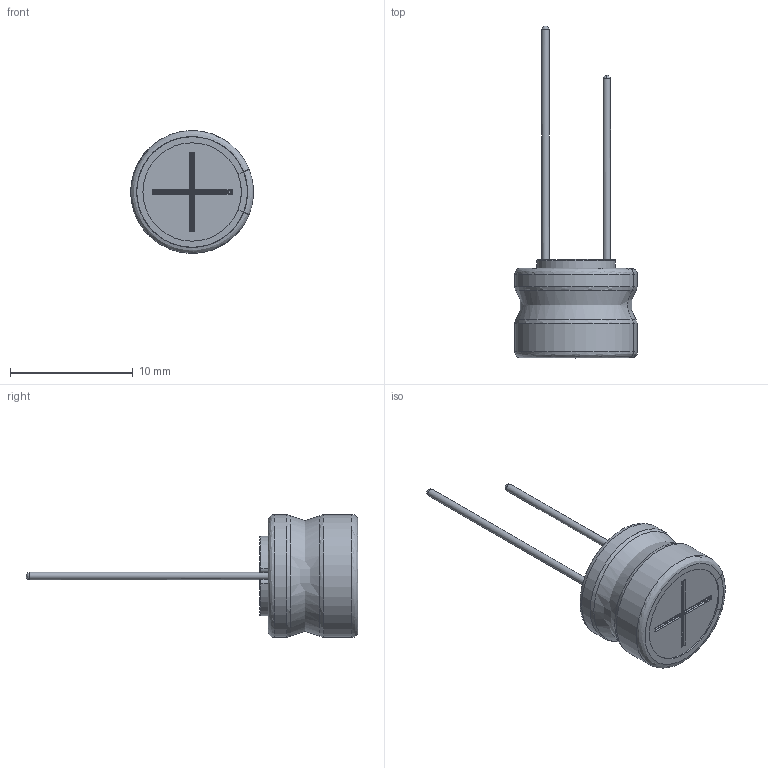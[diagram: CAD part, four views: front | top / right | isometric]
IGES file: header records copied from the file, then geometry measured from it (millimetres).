
Start section: JAMA-IS VERSION  1.0
Bounding box: 9.99 x 27 x 10 mm (x, y, z)
Surface area: 987.5 mm2 (no closed solid volume)
Topology: 0 solids, 0 shells, 115 faces, 1315 edges, 1296 vertices
Faces by surface type: bspline 115
